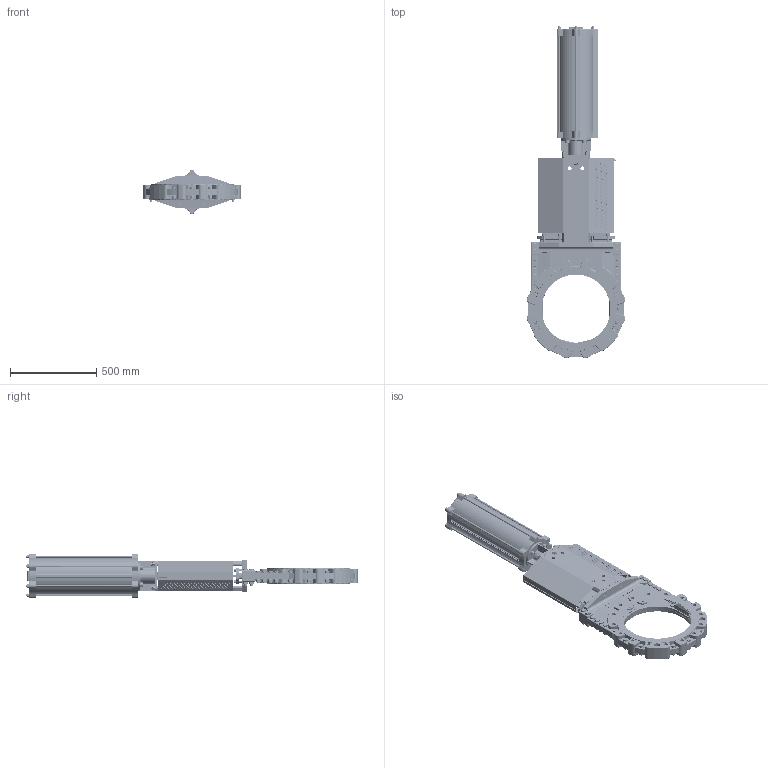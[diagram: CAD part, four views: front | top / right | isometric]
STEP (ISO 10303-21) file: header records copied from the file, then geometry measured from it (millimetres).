
FILE_DESCRIPTION(/* description */ (''),/* implementation_level */ '2;1');
FILE_NAME(/* name */ 'F:\Emir\3D-block special\WB\WB14E-DN400-FRSC200-450\WB14E-DN400-PN10-FRSC200-450.stp',/* time_stamp */ '2018-03-19T08:27:38+01:00',/* author */ ('emimus'),/* organization */ (''),/* preprocessor_version */ 'ST-DEVELOPER v17',/* originating_system */ 'Autodesk Inventor 2018',/* authorisation */ '');
FILE_SCHEMA (('CONFIG_CONTROL_DESIGN'));
Products named in the file (1): WB14E-DN400-PN10-FRSC200-450_Shrinkwrap_1
Bounding box: 569.6 x 1927.3 x 256 mm (x, y, z)
Volume: 26552113.5 mm3; surface area: 4954738.6 mm2
Topology: 1 solids, 1 shells, 5253 faces, 13506 edges, 8685 vertices
Faces by surface type: plane 2348, cylinder 1330, bspline 725, cone 384, torus 322, sphere 144
Full cylindrical faces by diameter (mm): 3 x5, 3.7 x8, 4 x4, 4.3 x2, 4.5 x4, 4.917 x19, 7 x13, 7.5 x4, 8.376 x4, 9.5 x2, 10 x9, 10.106 x10, 12 x32, 13 x22, 13.835 x4, 16 x31, 16.1 x4, 17 x4, 18 x3, 18.631 x2, 20.752 x32, 22 x8, 22.49 x23, 24 x21, 25 x4, 28 x4, 30 x50, 33 x43, 33.835 x1, 36 x6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
Entity records: 174983 total; most frequent: CARTESIAN_POINT 49782, ORIENTED_EDGE 26980, DIRECTION 25009, EDGE_CURVE 13490, AXIS2_PLACEMENT_3D 9337, VERTEX_POINT 8683, LINE 6335, VECTOR 6335
